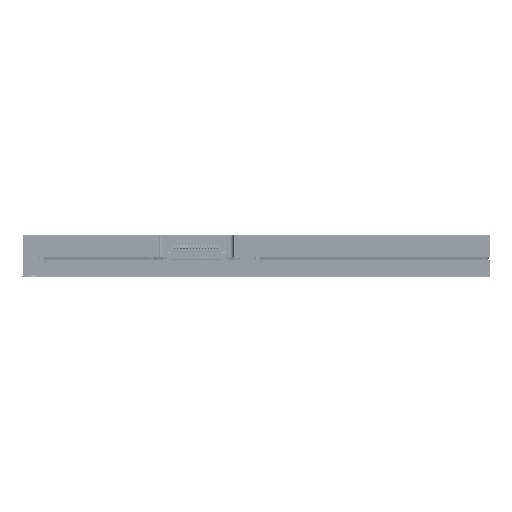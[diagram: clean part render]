
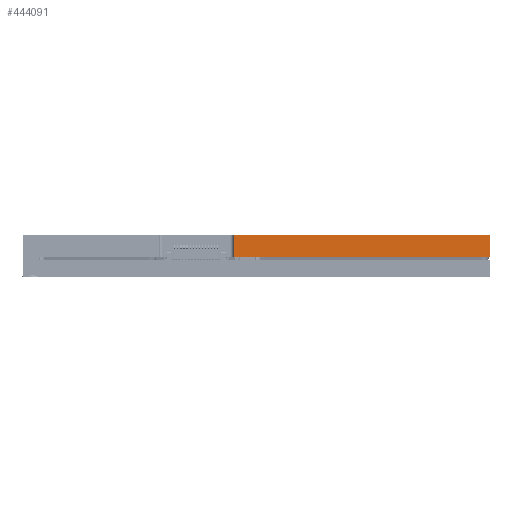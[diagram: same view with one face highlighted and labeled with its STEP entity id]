
A CAD part, front view. The second image highlights one B-rep face of the part: STEP entity #444091.
In plain terms, the highlighted free-form (B-spline) face has degree [1, 1] with [2, 2] control points.
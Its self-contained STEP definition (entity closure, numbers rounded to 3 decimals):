
#419564 = B_SPLINE_SURFACE_WITH_KNOTS('',1,1,(
    (#419565,#419566)
    ,(#419567,#419568
    )),.UNSPECIFIED.,.F.,.F.,.F.,(2,2),(2,2),(0.,1.),(0.,1.),
  .PIECEWISE_BEZIER_KNOTS.);
#419565 = CARTESIAN_POINT('',(76.2,0.,0.508));
#419566 = CARTESIAN_POINT('',(2.704,0.,0.508));
#419567 = CARTESIAN_POINT('',(76.2,35.56,0.508));
#419568 = CARTESIAN_POINT('',(2.704,35.56,0.508));
#428345 = VERTEX_POINT('',#428346);
#428346 = CARTESIAN_POINT('',(34.405,0.,0.508));
#428359 = B_SPLINE_SURFACE_WITH_KNOTS('',1,1,(
    (#428360,#428361)
    ,(#428362,#428363
    )),.UNSPECIFIED.,.F.,.F.,.F.,(2,2),(2,2),(0.,1.),(0.,1.),
  .PIECEWISE_BEZIER_KNOTS.);
#428360 = CARTESIAN_POINT('',(34.405,5.192,4.064));
#428361 = CARTESIAN_POINT('',(34.405,5.192,0.508));
#428362 = CARTESIAN_POINT('',(34.405,0.,4.064));
#428363 = CARTESIAN_POINT('',(34.405,0.,0.508));
#428370 = EDGE_CURVE('',#428345,#428371,#428373,.T.);
#428371 = VERTEX_POINT('',#428372);
#428372 = CARTESIAN_POINT('',(76.2,0.,0.508));
#428373 = SURFACE_CURVE('',#428374,(#428378,#428384),.PCURVE_S1.);
#428374 = LINE('',#428375,#428376);
#428375 = CARTESIAN_POINT('',(34.405,0.,0.508));
#428376 = VECTOR('',#428377,1.);
#428377 = DIRECTION('',(1.,0.,-0.));
#428378 = PCURVE('',#419564,#428379);
#428379 = DEFINITIONAL_REPRESENTATION('',(#428380),#428383);
#428380 = B_SPLINE_CURVE_WITH_KNOTS('',1,(#428381,#428382),
  .UNSPECIFIED.,.F.,.F.,(2,2),(0.,41.795),
  .PIECEWISE_BEZIER_KNOTS.);
#428381 = CARTESIAN_POINT('',(0.,0.569));
#428382 = CARTESIAN_POINT('',(0.,0.));
#428383 = ( GEOMETRIC_REPRESENTATION_CONTEXT(2) 
PARAMETRIC_REPRESENTATION_CONTEXT() REPRESENTATION_CONTEXT('2D SPACE',''
  ) );
#428384 = PCURVE('',#428385,#428390);
#428385 = B_SPLINE_SURFACE_WITH_KNOTS('',1,1,(
    (#428386,#428387)
    ,(#428388,#428389
    )),.UNSPECIFIED.,.F.,.F.,.F.,(2,2),(2,2),(0.,1.),(0.,1.),
  .PIECEWISE_BEZIER_KNOTS.);
#428386 = CARTESIAN_POINT('',(34.405,0.,4.064));
#428387 = CARTESIAN_POINT('',(34.405,0.,0.508));
#428388 = CARTESIAN_POINT('',(76.2,0.,4.064));
#428389 = CARTESIAN_POINT('',(76.2,0.,0.508));
#428390 = DEFINITIONAL_REPRESENTATION('',(#428391),#428394);
#428391 = B_SPLINE_CURVE_WITH_KNOTS('',1,(#428392,#428393),
  .UNSPECIFIED.,.F.,.F.,(2,2),(0.,41.795),
  .PIECEWISE_BEZIER_KNOTS.);
#428392 = CARTESIAN_POINT('',(0.,1.));
#428393 = CARTESIAN_POINT('',(1.,1.));
#428394 = ( GEOMETRIC_REPRESENTATION_CONTEXT(2) 
PARAMETRIC_REPRESENTATION_CONTEXT() REPRESENTATION_CONTEXT('2D SPACE',''
  ) );
#428411 = B_SPLINE_SURFACE_WITH_KNOTS('',1,1,(
    (#428412,#428413)
    ,(#428414,#428415
    )),.UNSPECIFIED.,.F.,.F.,.F.,(2,2),(2,2),(0.,1.),(0.,1.),
  .PIECEWISE_BEZIER_KNOTS.);
#428412 = CARTESIAN_POINT('',(76.2,0.,4.064));
#428413 = CARTESIAN_POINT('',(76.2,0.,0.508));
#428414 = CARTESIAN_POINT('',(76.2,35.56,4.064));
#428415 = CARTESIAN_POINT('',(76.2,35.56,0.508));
#436673 = B_SPLINE_SURFACE_WITH_KNOTS('',1,1,(
    (#436674,#436675)
    ,(#436676,#436677
    )),.UNSPECIFIED.,.F.,.F.,.F.,(2,2),(2,2),(0.,1.),(0.,1.),
  .PIECEWISE_BEZIER_KNOTS.);
#436674 = CARTESIAN_POINT('',(76.2,0.,4.064));
#436675 = CARTESIAN_POINT('',(0.,0.,4.064));
#436676 = CARTESIAN_POINT('',(76.2,35.56,4.064));
#436677 = CARTESIAN_POINT('',(0.,35.56,4.064));
#438371 = VERTEX_POINT('',#438372);
#438372 = CARTESIAN_POINT('',(34.405,0.,4.064));
#438391 = EDGE_CURVE('',#438371,#438392,#438394,.T.);
#438392 = VERTEX_POINT('',#438393);
#438393 = CARTESIAN_POINT('',(76.2,0.,4.064));
#438394 = SURFACE_CURVE('',#438395,(#438399,#438405),.PCURVE_S1.);
#438395 = LINE('',#438396,#438397);
#438396 = CARTESIAN_POINT('',(34.405,0.,4.064));
#438397 = VECTOR('',#438398,1.);
#438398 = DIRECTION('',(1.,0.,-0.));
#438399 = PCURVE('',#436673,#438400);
#438400 = DEFINITIONAL_REPRESENTATION('',(#438401),#438404);
#438401 = B_SPLINE_CURVE_WITH_KNOTS('',1,(#438402,#438403),
  .UNSPECIFIED.,.F.,.F.,(2,2),(0.,41.795),
  .PIECEWISE_BEZIER_KNOTS.);
#438402 = CARTESIAN_POINT('',(0.,0.548));
#438403 = CARTESIAN_POINT('',(0.,0.));
#438404 = ( GEOMETRIC_REPRESENTATION_CONTEXT(2) 
PARAMETRIC_REPRESENTATION_CONTEXT() REPRESENTATION_CONTEXT('2D SPACE',''
  ) );
#438405 = PCURVE('',#428385,#438406);
#438406 = DEFINITIONAL_REPRESENTATION('',(#438407),#438410);
#438407 = B_SPLINE_CURVE_WITH_KNOTS('',1,(#438408,#438409),
  .UNSPECIFIED.,.F.,.F.,(2,2),(0.,41.795),
  .PIECEWISE_BEZIER_KNOTS.);
#438408 = CARTESIAN_POINT('',(0.,0.));
#438409 = CARTESIAN_POINT('',(1.,0.));
#438410 = ( GEOMETRIC_REPRESENTATION_CONTEXT(2) 
PARAMETRIC_REPRESENTATION_CONTEXT() REPRESENTATION_CONTEXT('2D SPACE',''
  ) );
#444091 = ADVANCED_FACE('',(#444092),#428385,.F.);
#444092 = FACE_BOUND('',#444093,.F.);
#444093 = EDGE_LOOP('',(#444094,#444113,#444114,#444133));
#444094 = ORIENTED_EDGE('',*,*,#444095,.T.);
#444095 = EDGE_CURVE('',#438392,#428371,#444096,.T.);
#444096 = SURFACE_CURVE('',#444097,(#444101,#444107),.PCURVE_S1.);
#444097 = LINE('',#444098,#444099);
#444098 = CARTESIAN_POINT('',(76.2,0.,4.064));
#444099 = VECTOR('',#444100,1.);
#444100 = DIRECTION('',(0.,0.,-1.));
#444101 = PCURVE('',#428385,#444102);
#444102 = DEFINITIONAL_REPRESENTATION('',(#444103),#444106);
#444103 = B_SPLINE_CURVE_WITH_KNOTS('',1,(#444104,#444105),
  .UNSPECIFIED.,.F.,.F.,(2,2),(0.,3.556),.PIECEWISE_BEZIER_KNOTS.);
#444104 = CARTESIAN_POINT('',(1.,0.));
#444105 = CARTESIAN_POINT('',(1.,1.));
#444106 = ( GEOMETRIC_REPRESENTATION_CONTEXT(2) 
PARAMETRIC_REPRESENTATION_CONTEXT() REPRESENTATION_CONTEXT('2D SPACE',''
  ) );
#444107 = PCURVE('',#428411,#444108);
#444108 = DEFINITIONAL_REPRESENTATION('',(#444109),#444112);
#444109 = B_SPLINE_CURVE_WITH_KNOTS('',1,(#444110,#444111),
  .UNSPECIFIED.,.F.,.F.,(2,2),(0.,3.556),.PIECEWISE_BEZIER_KNOTS.);
#444110 = CARTESIAN_POINT('',(0.,0.));
#444111 = CARTESIAN_POINT('',(0.,1.));
#444112 = ( GEOMETRIC_REPRESENTATION_CONTEXT(2) 
PARAMETRIC_REPRESENTATION_CONTEXT() REPRESENTATION_CONTEXT('2D SPACE',''
  ) );
#444113 = ORIENTED_EDGE('',*,*,#428370,.F.);
#444114 = ORIENTED_EDGE('',*,*,#444115,.T.);
#444115 = EDGE_CURVE('',#428345,#438371,#444116,.T.);
#444116 = SURFACE_CURVE('',#444117,(#444121,#444127),.PCURVE_S1.);
#444117 = LINE('',#444118,#444119);
#444118 = CARTESIAN_POINT('',(34.405,0.,0.508));
#444119 = VECTOR('',#444120,1.);
#444120 = DIRECTION('',(-0.,0.,1.));
#444121 = PCURVE('',#428385,#444122);
#444122 = DEFINITIONAL_REPRESENTATION('',(#444123),#444126);
#444123 = B_SPLINE_CURVE_WITH_KNOTS('',1,(#444124,#444125),
  .UNSPECIFIED.,.F.,.F.,(2,2),(0.,3.556),.PIECEWISE_BEZIER_KNOTS.);
#444124 = CARTESIAN_POINT('',(0.,1.));
#444125 = CARTESIAN_POINT('',(0.,0.));
#444126 = ( GEOMETRIC_REPRESENTATION_CONTEXT(2) 
PARAMETRIC_REPRESENTATION_CONTEXT() REPRESENTATION_CONTEXT('2D SPACE',''
  ) );
#444127 = PCURVE('',#428359,#444128);
#444128 = DEFINITIONAL_REPRESENTATION('',(#444129),#444132);
#444129 = B_SPLINE_CURVE_WITH_KNOTS('',1,(#444130,#444131),
  .UNSPECIFIED.,.F.,.F.,(2,2),(0.,3.556),.PIECEWISE_BEZIER_KNOTS.);
#444130 = CARTESIAN_POINT('',(1.,1.));
#444131 = CARTESIAN_POINT('',(1.,0.));
#444132 = ( GEOMETRIC_REPRESENTATION_CONTEXT(2) 
PARAMETRIC_REPRESENTATION_CONTEXT() REPRESENTATION_CONTEXT('2D SPACE',''
  ) );
#444133 = ORIENTED_EDGE('',*,*,#438391,.T.);
